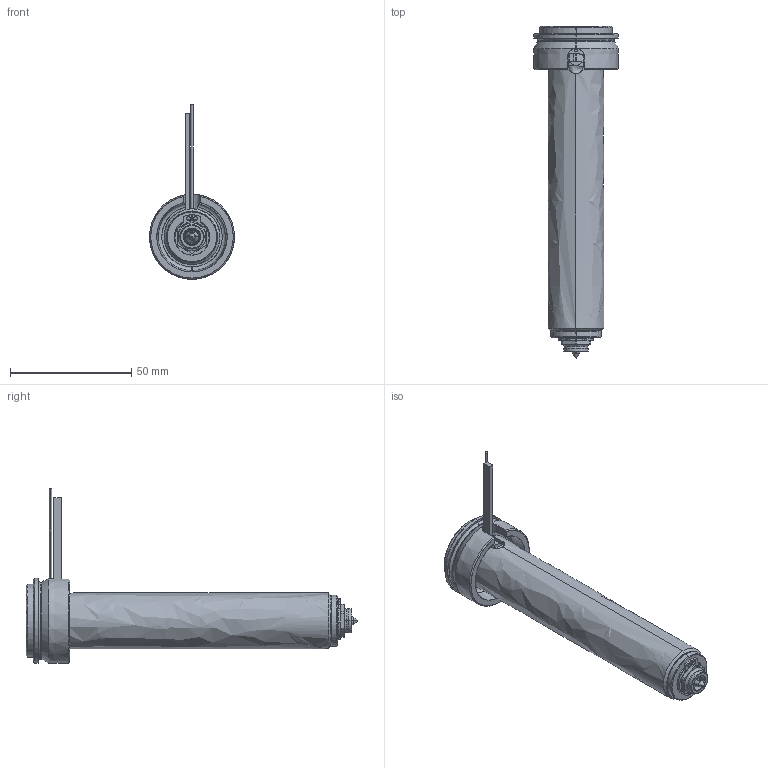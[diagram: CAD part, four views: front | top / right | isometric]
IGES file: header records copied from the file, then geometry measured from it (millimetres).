
Start section: SolidWorks IGES file using analytic representation for surfaces
Global section: file name: C:\Documents and Settings\ws-20\Desktop\TEM\UGEP3053-M-A-1 [Øf-0.50 ØC-7.0].IGS; native system: SolidWorks 2012; preprocessor: SolidWorks 2012; author: ws-20; date: 120402.143449; units: millimetre
Bounding box: 35 x 136.8 x 71.9 mm (x, y, z)
Surface area: 27613.7 mm2 (no closed solid volume)
Topology: 0 solids, 0 shells, 133 faces, 1936 edges, 1936 vertices
Faces by surface type: revolution 81, bspline 52
